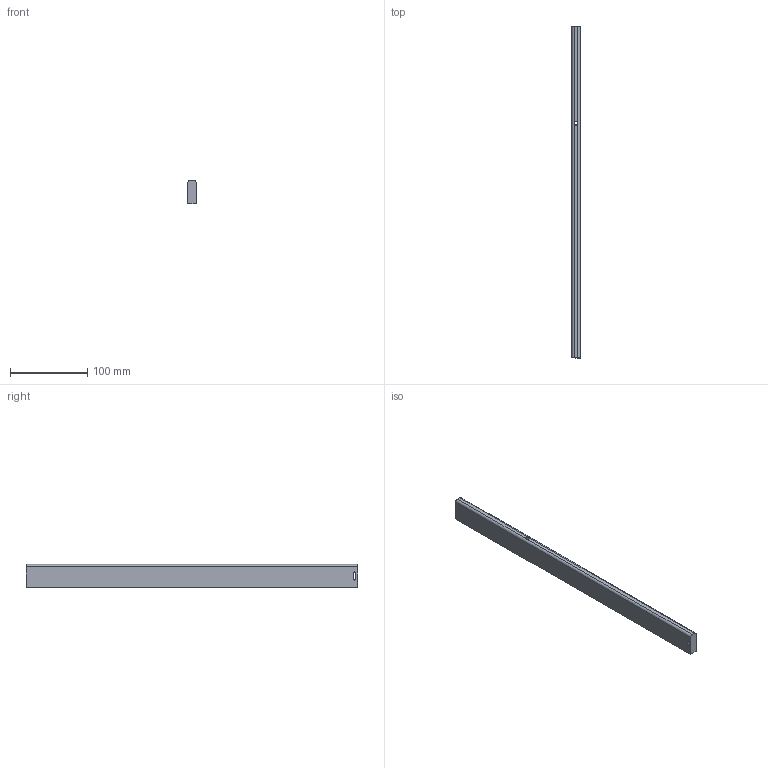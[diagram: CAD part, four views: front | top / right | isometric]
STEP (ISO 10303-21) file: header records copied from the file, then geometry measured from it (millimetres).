
FILE_DESCRIPTION (( 'STEP AP214' ), '1' );
FILE_NAME ('_Seitenreling_S760609500_RL429,5.step', '2010-09-06T14:51:33', ( 'grass' ), ( '' ), 'SwSTEP 2.0', 'SolidWorks 2010', '' );
FILE_SCHEMA (( 'AUTOMOTIVE_DESIGN' ));
Length unit declared in the file: millimetre
Products named in the file (1): _Seitenreling_S760609500_RL429,5
Bounding box: 10.5 x 429.5 x 30 mm (x, y, z)
Volume: 132247.4 mm3; surface area: 35159 mm2
Topology: 1 solids, 1 shells, 23 faces, 56 edges, 36 vertices
Faces by surface type: plane 15, cylinder 8
Entity records: 716 total; most frequent: DIRECTION 120, CARTESIAN_POINT 116, ORIENTED_EDGE 112, EDGE_CURVE 56, LINE 40, VECTOR 40, AXIS2_PLACEMENT_3D 40, VERTEX_POINT 36
